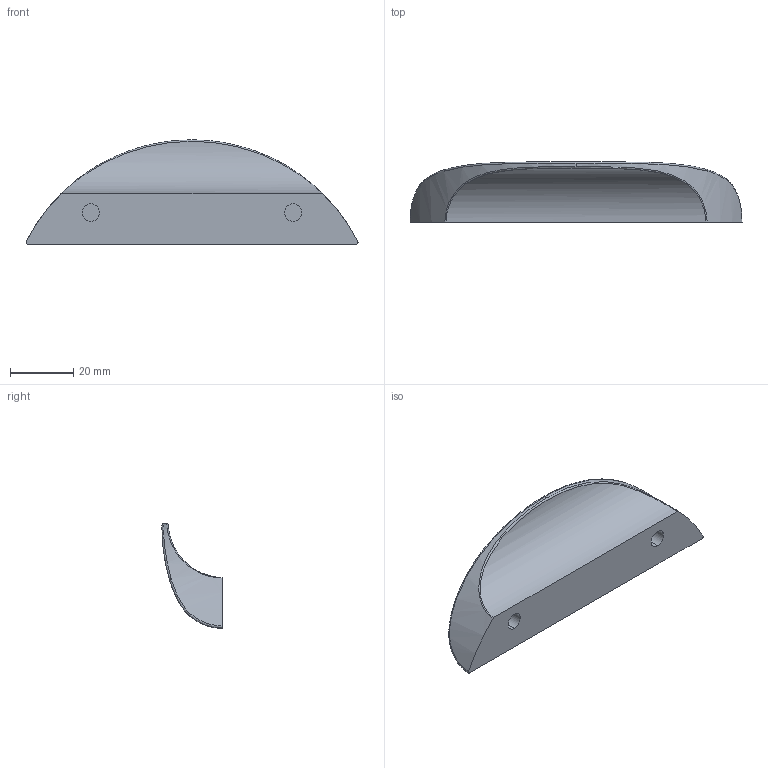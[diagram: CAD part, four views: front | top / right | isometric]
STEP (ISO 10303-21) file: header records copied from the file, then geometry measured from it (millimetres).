
FILE_DESCRIPTION (( 'STEP AP203' ), '1' );
FILE_NAME ('6885 VV-223.STEP', '2022-08-09T01:45:15', ( '' ), ( '' ), 'SwSTEP 2.0', 'SolidWorks 2020', '' );
FILE_SCHEMA (( 'CONFIG_CONTROL_DESIGN' ));
Length unit declared in the file: millimetre
Products named in the file (1): 6885 VV-223
Bounding box: 104.99 x 19 x 33 mm (x, y, z)
Volume: 24118.6 mm3; surface area: 7852.5 mm2
Topology: 1 solids, 1 shells, 19 faces, 41 edges, 26 vertices
Faces by surface type: cylinder 10, bspline 6, plane 3
Entity records: 1896 total; most frequent: CARTESIAN_POINT 1450, ORIENTED_EDGE 82, DIRECTION 65, EDGE_CURVE 41, AXIS2_PLACEMENT_3D 28, VERTEX_POINT 26, EDGE_LOOP 21, ADVANCED_FACE 19
